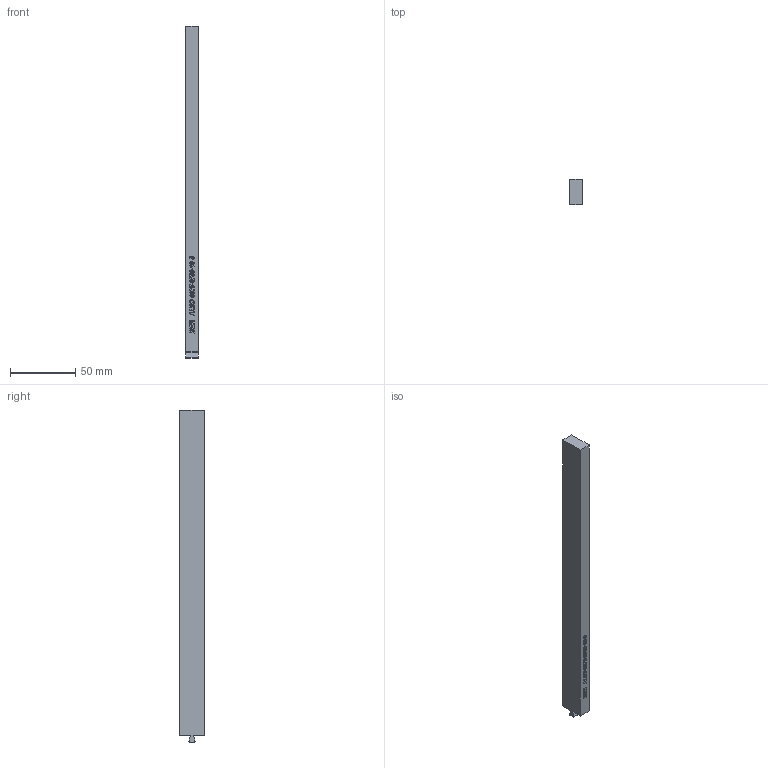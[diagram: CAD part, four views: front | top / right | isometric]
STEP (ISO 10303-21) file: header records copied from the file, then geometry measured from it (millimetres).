
FILE_DESCRIPTION (( 'STEP AP203' ), '1' );
FILE_NAME ('ALBD-0375-0750-10-5.STEP', '2021-01-11T20:22:50', ( '' ), ( '' ), 'SwSTEP 2.0', 'SolidWorks 2020', '' );
FILE_SCHEMA (( 'CONFIG_CONTROL_DESIGN' ));
Length unit declared in the file: inch
Products named in the file (1): ALBD-0375-0750-10-5
Bounding box: 9.53 x 19.05 x 254 mm (x, y, z)
Volume: 45380.1 mm3; surface area: 14791.8 mm2
Topology: 1 solids, 1 shells, 200 faces, 501 edges, 334 vertices
Faces by surface type: plane 149, bspline 51
Entity records: 7798 total; most frequent: CARTESIAN_POINT 3267, ORIENTED_EDGE 1002, DIRECTION 699, EDGE_CURVE 501, LINE 399, VECTOR 399, VERTEX_POINT 334, EDGE_LOOP 231
